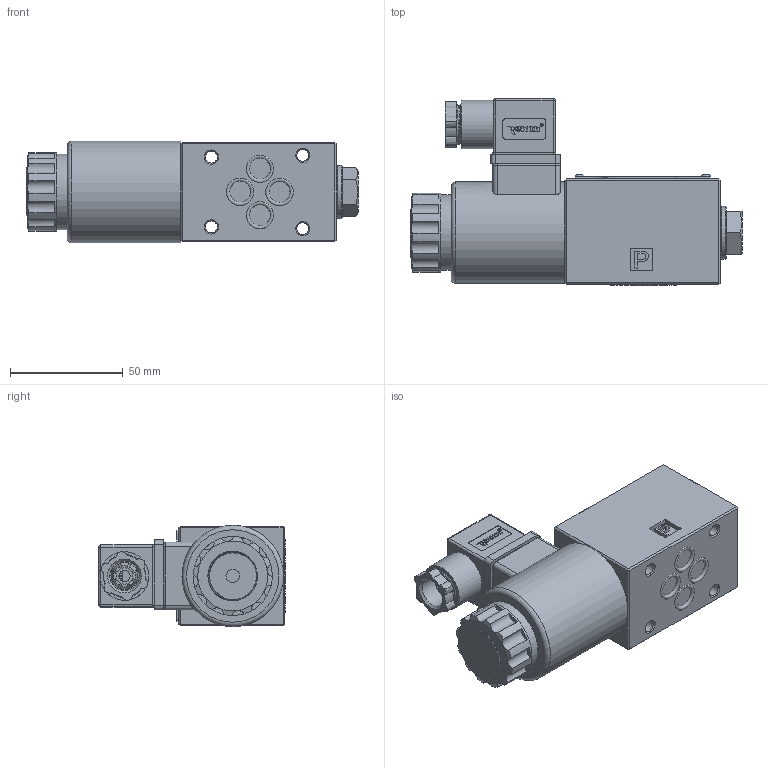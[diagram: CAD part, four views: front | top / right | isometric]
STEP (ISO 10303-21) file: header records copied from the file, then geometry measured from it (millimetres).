
FILE_DESCRIPTION(/* description */ (''),/* implementation_level */ '2;1');
FILE_NAME(/* name */ '4WE6-6XJ直流电磁阀（二位阀电磁铁在A端）.prt.stp',/* time_stamp */ '2022-03-30T19:32:13+08:00',/* author */ (''),/* organization */ (''),/* preprocessor_version */ 'ST-DEVELOPER v16.7',/* originating_system */ 'SIEMENS PLM Software NX 12.0',/* authorisation */ '');
FILE_SCHEMA (('AUTOMOTIVE_DESIGN { 1 0 10303 214 3 1 1 1 }'));
Products named in the file (1): 4WE6-6XJ直流电磁阀（二位阀电磁铁在A
端）
Bounding box: 147.2 x 82.88 x 45 mm (x, y, z)
Volume: 253131.6 mm3; surface area: 79751 mm2
Topology: 63 solids, 71 shells, 2463 faces, 6630 edges, 4390 vertices
Faces by surface type: plane 1902, cylinder 311, cone 80, extrusion 75, bspline 49, torus 36, sphere 10
Full cylindrical faces by diameter (mm): 0.5 x2, 1.65 x3, 1.8 x4, 2 x12, 2.125 x3, 2.2 x2, 2.5 x5, 2.8 x3, 3 x3, 4 x1, 4.2 x1, 4.4 x1, 4.5 x3, 5 x1, 5.3 x4, 5.32 x1, 5.5 x2, 6 x2, 6.2 x1, 7.2 x1, 8 x1, 8.7 x1, 9 x1, 9.4 x4, 11 x1, 12 x3, 12.2 x2, 13 x1, 14.5 x1, 15 x1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
Entity records: 109219 total; most frequent: CARTESIAN_POINT 48148, ORIENTED_EDGE 12586, DIRECTION 11174, EDGE_CURVE 6293, VECTOR 5178, LINE 5103, VERTEX_POINT 4236, AXIS2_PLACEMENT_3D 2998
